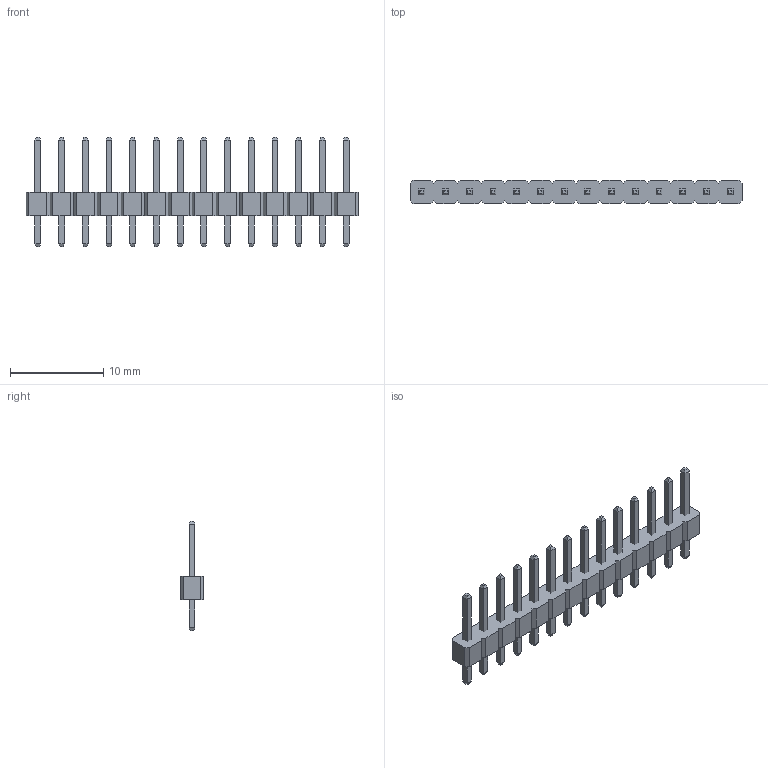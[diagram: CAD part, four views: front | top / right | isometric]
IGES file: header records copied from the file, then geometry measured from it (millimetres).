
Start section: Data from Parasolid IGES Translator 23.1.110, Copyright(c) 2006 Siemens PLM Software. All Rights Reserved.
Global section: file name: 5f3dd653933f190f816bcb5c.iges; native system: By Siemens PLM Incorporated; preprocessor: XPlus GENERIC/IGES 23.1.110; author: Noname; organization: Noname; date: 20200820.014804; units: metre
Bounding box: 35.56 x 2.54 x 11.68 mm (x, y, z)
Surface area: 810 mm2 (no closed solid volume)
Topology: 0 solids, 0 shells, 368 faces, 1636 edges, 1636 vertices
Faces by surface type: extrusion 368
